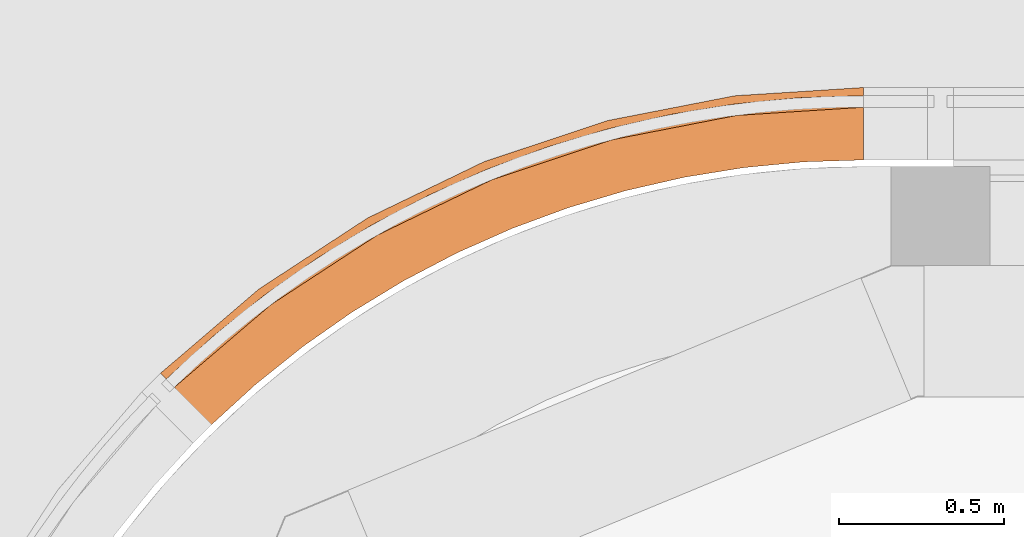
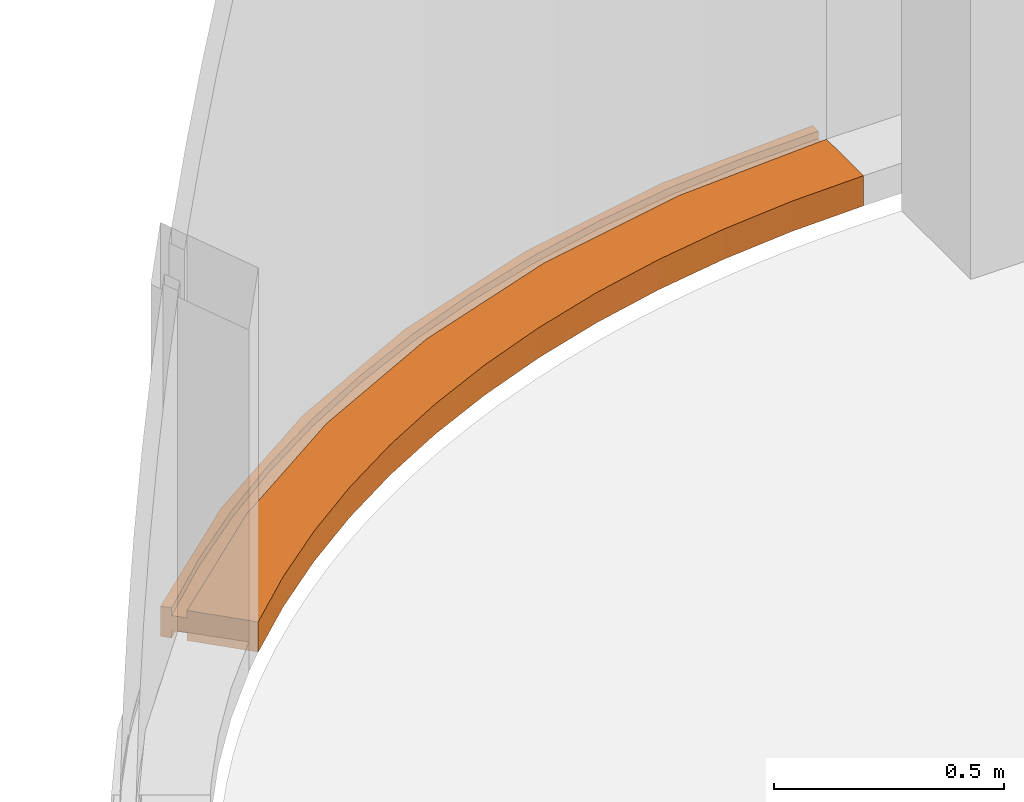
# One storey, part 296 of 302: 1 proxy.
"""IFC2X3 building model written with IfcOpenShell, lengths in metres."""

from ifc_helpers import new_model, entity, si_unit, converted_unit, derived_unit, direction, frame, origin, place, context, subcontext, project, spatial, faceted_brep, source, transform, mapped, material, type_object, type_shapes, element, save


model = new_model("IFC2X3")

# Units and contexts
model_context = context("Model", 3, precision=1e-05, world=origin(), true_north=direction((6.12303176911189e-17, 1.0)))
body_context = subcontext(model_context, "Body", "Model", "MODEL_VIEW")
ifc_project = project(units=[si_unit("LENGTHUNIT", "METRE"), si_unit("AREAUNIT", "SQUARE_METRE"), si_unit("VOLUMEUNIT", "CUBIC_METRE"), converted_unit("PLANEANGLEUNIT", "DEGREE", entity("IfcRatioMeasure", 0.0174532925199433), si_unit("PLANEANGLEUNIT", "RADIAN"), dimensions=[0, 0, 0, 0, 0, 0, 0]), si_unit("MASSUNIT", "GRAM", prefix="KILO"), derived_unit("MASSDENSITYUNIT", [(si_unit("MASSUNIT", "GRAM", prefix="KILO"), 1), (si_unit("LENGTHUNIT", "METRE"), -3)]), derived_unit("MOMENTOFINERTIAUNIT", [(si_unit("LENGTHUNIT", "METRE"), 4)]), si_unit("TIMEUNIT", "SECOND"), si_unit("FREQUENCYUNIT", "HERTZ"), si_unit("THERMODYNAMICTEMPERATUREUNIT", "DEGREE_CELSIUS"), derived_unit("THERMALTRANSMITTANCEUNIT", [(si_unit("MASSUNIT", "GRAM", prefix="KILO"), 1), (si_unit("THERMODYNAMICTEMPERATUREUNIT", "KELVIN"), -1), (si_unit("TIMEUNIT", "SECOND"), -3)]), derived_unit("VOLUMETRICFLOWRATEUNIT", [(si_unit("LENGTHUNIT", "METRE"), 3), (si_unit("TIMEUNIT", "SECOND"), -1)]), si_unit("ELECTRICCURRENTUNIT", "AMPERE"), si_unit("ELECTRICVOLTAGEUNIT", "VOLT"), si_unit("POWERUNIT", "WATT"), si_unit("FORCEUNIT", "NEWTON", prefix="KILO"), si_unit("ILLUMINANCEUNIT", "LUX"), si_unit("LUMINOUSFLUXUNIT", "LUMEN"), si_unit("LUMINOUSINTENSITYUNIT", "CANDELA"), derived_unit("USERDEFINED", [(si_unit("MASSUNIT", "GRAM", prefix="KILO"), -1), (si_unit("LENGTHUNIT", "METRE"), -2), (si_unit("TIMEUNIT", "SECOND"), 3), (si_unit("LUMINOUSFLUXUNIT", "LUMEN"), 1)]), derived_unit("LINEARVELOCITYUNIT", [(si_unit("LENGTHUNIT", "METRE"), 1), (si_unit("TIMEUNIT", "SECOND"), -1)]), si_unit("PRESSUREUNIT", "PASCAL"), derived_unit("USERDEFINED", [(si_unit("LENGTHUNIT", "METRE"), -2), (si_unit("MASSUNIT", "GRAM", prefix="KILO"), 1), (si_unit("TIMEUNIT", "SECOND"), -2)]), derived_unit("LINEARFORCEUNIT", [(si_unit("MASSUNIT", "GRAM", prefix="KILO"), 1), (si_unit("LENGTHUNIT", "METRE"), 1), (si_unit("TIMEUNIT", "SECOND"), -2), (si_unit("LENGTHUNIT", "METRE"), -1)]), derived_unit("PLANARFORCEUNIT", [(si_unit("MASSUNIT", "GRAM", prefix="KILO"), 1), (si_unit("LENGTHUNIT", "METRE"), 1), (si_unit("TIMEUNIT", "SECOND"), -2), (si_unit("LENGTHUNIT", "METRE"), -2)])], contexts=[model_context])

# Site, building, storey
site_placement = place(None, origin())
site = spatial("IfcSite", under=ifc_project, at=site_placement, Name="Default", CompositionType="ELEMENT")
building_placement = place(site_placement, origin())
building = spatial("IfcBuilding", under=site, at=building_placement, CompositionType="ELEMENT")
storey_placement = place(building_placement, frame((0.0, 0.0, -1.3)))
storey = spatial("IfcBuildingStorey", under=building, at=storey_placement, Name="00_EG", CompositionType="ELEMENT", Elevation=-1.3)

# Proxy
ifc_material = material(Name="Prepainted_Steel-ArcelorMittal_Construction_HAIRULTRA-35-CORAL-4309-[RAL_3000]")
building_element_proxy_type = type_object("IfcBuildingElementProxyType", Name="Fassadenrahmen Typ3:Fassadenrahmen Typ1", PredefinedType="NOTDEFINED", material=ifc_material)
shared_shape = source(origin(), body_context, "Body", "Brep", [
    faceted_brep([(0.0434522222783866, 0.116230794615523, 0.0800000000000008), (0.0434522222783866, 0.116230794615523, 0.0600000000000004), (0.0190356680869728, 0.141307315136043, 0.0599999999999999), (0.0190356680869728, 0.141307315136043, 0.0799999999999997), (0.00159527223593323, 0.159219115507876, 0.0799999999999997), (0.00159527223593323, 0.159219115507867, 0.0), (0.0190356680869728, 0.141307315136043, 0.0), (0.0190356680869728, 0.141307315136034, 0.0200000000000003), (0.0434522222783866, 0.116230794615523, 0.0200000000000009), (0.0434522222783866, 0.116230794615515, 0.0), (0.155070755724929, 0.0015952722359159, 0.0), (0.155070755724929, 0.00159527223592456, 0.0800000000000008), (2.13629972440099, 0.806814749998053, 0.0800000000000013), (2.13629972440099, 0.806814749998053, 0.0), (2.13629972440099, 0.966814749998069, 0.0), (2.13629972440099, 0.966814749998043, 0.0200000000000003), (2.13629972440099, 1.00181474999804, 0.0200000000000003), (2.13629972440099, 1.00181474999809, 0.0), (2.13629972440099, 1.02681474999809, 0.0), (2.13629972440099, 1.02681474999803, 0.0799999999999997), (2.13629972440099, 1.00181474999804, 0.0800000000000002), (2.13629972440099, 1.00181474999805, 0.0600000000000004), (2.13629972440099, 0.966814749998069, 0.0600000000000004), (2.13629972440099, 0.966814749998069, 0.0800000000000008), (1.37272960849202, 0.868014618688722, 0.0800000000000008), (1.28123544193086, 0.837522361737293, 0.0800000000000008), (1.18974127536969, 0.807030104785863, 0.0800000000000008), (1.09824710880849, 0.776537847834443, 0.0800000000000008), (1.00675294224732, 0.746045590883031, 0.0800000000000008), (0.919928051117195, 0.704064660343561, 0.0800000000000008), (0.833103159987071, 0.662083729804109, 0.0800000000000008), (0.746278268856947, 0.620102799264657, 0.0800000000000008), (0.659453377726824, 0.578121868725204, 0.0800000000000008), (0.578733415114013, 0.525346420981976, 0.0800000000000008), (0.498013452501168, 0.472570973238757, 0.0800000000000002), (0.417293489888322, 0.419795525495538, 0.0800000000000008), (0.336573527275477, 0.367020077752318, 0.0800000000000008), (0.28077446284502, 0.319279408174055, 0.0800000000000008), (0.224975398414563, 0.271538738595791, 0.0800000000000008), (0.134213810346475, 0.193884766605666, 0.0800000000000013), (0.289994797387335, 0.124767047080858, 0.0800000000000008), (0.432558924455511, 0.239009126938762, 0.0800000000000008), (0.582173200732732, 0.34384877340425, 0.0800000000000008), (0.738218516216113, 0.438852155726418, 0.0800000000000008), (0.900049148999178, 0.523626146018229, 0.0800000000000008), (1.0669954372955, 0.597819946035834, 0.0800000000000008), (1.23836655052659, 0.661126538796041, 0.0800000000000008), (1.41345334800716, 0.713283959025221, 0.0800000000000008), (1.59153131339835, 0.75407637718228, 0.0800000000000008), (1.77186355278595, 0.783334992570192, 0.0800000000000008), (1.95370384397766, 0.800938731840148, 0.0800000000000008), (2.04005777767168, 0.96061410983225, 0.0800000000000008), (1.94381583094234, 0.95441346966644, 0.0800000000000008), (1.847573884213, 0.948212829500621, 0.0800000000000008), (1.7513319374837, 0.942012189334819, 0.0800000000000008), (1.6566813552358, 0.923512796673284, 0.0800000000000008), (1.5620307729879, 0.905013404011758, 0.0800000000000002), (1.46738019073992, 0.88651401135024, 0.0800000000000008), (1.35745820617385, 0.926038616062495, 0.0799999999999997), (0.984162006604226, 0.80163020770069, 0.0799999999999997), (0.629916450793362, 0.630348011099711, 0.0799999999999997), (0.300579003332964, 0.415024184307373, 0.0799999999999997), (0.0911297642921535, 0.207121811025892, 0.0800000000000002), (0.163223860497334, 0.272936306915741, 0.0800000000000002), (0.239400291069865, 0.333979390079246, 0.0800000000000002), (0.315576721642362, 0.39502247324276, 0.0800000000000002), (0.395520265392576, 0.451041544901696, 0.0800000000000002), (0.475463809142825, 0.507060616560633, 0.0800000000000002), (0.55884365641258, 0.557823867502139, 0.0800000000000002), (0.642223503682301, 0.608587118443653, 0.0800000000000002), (0.728694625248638, 0.653884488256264, 0.0800000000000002), (0.815165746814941, 0.699181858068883, 0.0800000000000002), (0.904370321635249, 0.738825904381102, 0.0800000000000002), (0.993574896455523, 0.778469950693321, 0.0800000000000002), (1.08514379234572, 0.812296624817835, 0.0800000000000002), (1.17671268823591, 0.846123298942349, 0.0800000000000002), (1.27026698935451, 0.873992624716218, 0.0800000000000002), (1.36382129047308, 0.901861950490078, 0.0800000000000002), (1.45897386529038, 0.923658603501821, 0.0800000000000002), (1.55412644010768, 0.945455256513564, 0.0800000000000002), (1.65048354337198, 0.961089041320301, 0.0800000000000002), (1.74684064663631, 0.976722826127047, 0.0800000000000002), (1.84400354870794, 0.986129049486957, 0.0800000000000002), (1.94116645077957, 0.995535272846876, 0.0800000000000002), (2.03873308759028, 0.99867501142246, 0.0800000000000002), (1.74363258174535, 1.00151613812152, 0.0799999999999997), (0.336573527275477, 0.367020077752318, 0.0600000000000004), (0.263293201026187, 0.304322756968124, 0.0600000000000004), (0.190012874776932, 0.241625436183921, 0.0600000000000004), (0.134213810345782, 0.193884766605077, 0.0600000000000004), (0.336573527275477, 0.367020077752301, 0.0200000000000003), (0.336573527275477, 0.367020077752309, 0.0), (0.280774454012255, 0.319279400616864, 0.0), (0.224975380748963, 0.271538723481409, 0.0), (0.134213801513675, 0.193884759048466, 0.0), (0.116732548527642, 0.178928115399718, 0.0200000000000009), (0.190012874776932, 0.241625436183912, 0.0200000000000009), (0.263293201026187, 0.304322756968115, 0.0200000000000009), (2.01709898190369, 0.95913492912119, 0.0600000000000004), (1.94381583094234, 0.95441346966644, 0.0600000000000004), (1.847573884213, 0.948212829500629, 0.0600000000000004), (1.7513319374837, 0.94201218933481, 0.0600000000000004), (1.847573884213, 0.948212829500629, 0.0200000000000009), (1.94381583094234, 0.95441346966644, 0.0200000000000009), (2.01709898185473, 0.959134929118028, 0.0200000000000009), (2.01709898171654, 0.959134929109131, 0.0), (1.89789823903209, 0.951455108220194, 0.0), (1.82461508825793, 0.946733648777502, 0.0), (1.7513319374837, 0.94201218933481, 0.0), (1.7513319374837, 0.942012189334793, 0.0200000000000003), (0.659453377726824, 0.578121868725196, 0.0600000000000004), (1.00675294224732, 0.746045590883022, 0.0600000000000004), (0.919928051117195, 0.70406466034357, 0.0600000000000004), (0.833103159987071, 0.662083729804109, 0.0600000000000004), (0.746278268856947, 0.620102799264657, 0.0600000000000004), (0.919928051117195, 0.704064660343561, 0.0), (0.833103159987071, 0.662083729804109, 0.0), (0.746278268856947, 0.620102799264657, 0.0), (0.659453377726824, 0.578121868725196, 0.0), (0.659453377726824, 0.578121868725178, 0.0200000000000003), (0.746278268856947, 0.620102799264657, 0.0200000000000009), (0.833103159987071, 0.662083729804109, 0.0200000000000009), (0.919928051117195, 0.704064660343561, 0.0200000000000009), (1.00675294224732, 0.746045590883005, 0.0200000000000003), (1.00675294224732, 0.746045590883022, 0.0), (0.578733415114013, 0.525346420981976, 0.0600000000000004), (0.498013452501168, 0.472570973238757, 0.0600000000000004), (0.417293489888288, 0.419795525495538, 0.0600000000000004), (0.417293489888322, 0.419795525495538, 0.0200000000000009), (0.498013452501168, 0.472570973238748, 0.0200000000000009), (0.578733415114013, 0.525346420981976, 0.0200000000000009), (0.578733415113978, 0.525346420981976, 0.0), (0.498013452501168, 0.472570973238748, 0.0), (0.417293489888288, 0.419795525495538, 0.0), (1.65668135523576, 0.923512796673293, 0.0600000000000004), (1.56203077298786, 0.905013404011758, 0.0600000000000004), (1.46738019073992, 0.88651401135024, 0.0600000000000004), (1.37272960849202, 0.868014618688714, 0.0600000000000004), (1.56203077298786, 0.905013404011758, 0.0), (1.46738019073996, 0.88651401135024, 0.0), (1.37272960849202, 0.868014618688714, 0.0), (1.37272960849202, 0.868014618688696, 0.0200000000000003), (1.46738019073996, 0.88651401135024, 0.0200000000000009), (1.56203077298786, 0.905013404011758, 0.0200000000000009), (1.65668135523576, 0.923512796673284, 0.0200000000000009), (1.65668135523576, 0.923512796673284, 0.0), (1.09824710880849, 0.776537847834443, 0.0600000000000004), (1.28123544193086, 0.837522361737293, 0.0600000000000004), (1.18974127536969, 0.807030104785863, 0.0600000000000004), (1.09824710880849, 0.776537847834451, 0.0200000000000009), (1.18974127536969, 0.807030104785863, 0.0200000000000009), (1.28123544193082, 0.837522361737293, 0.0200000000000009), (1.28123544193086, 0.837522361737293, 0.0), (1.18974127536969, 0.807030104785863, 0.0), (1.09824710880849, 0.776537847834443, 0.0), (2.01615708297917, 0.997948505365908, 0.0599999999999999), (1.94116645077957, 0.995535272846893, 0.0600000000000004), (1.84400354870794, 0.986129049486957, 0.0599999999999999), (1.74684064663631, 0.976722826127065, 0.0600000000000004), (1.65048354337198, 0.961089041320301, 0.0599999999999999), (1.55412644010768, 0.945455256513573, 0.0600000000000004), (1.45897386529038, 0.923658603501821, 0.0599999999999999), (1.36382129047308, 0.901861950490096, 0.0600000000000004), (1.27026698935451, 0.873992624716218, 0.0599999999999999), (1.17671268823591, 0.846123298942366, 0.0600000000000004), (1.08514379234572, 0.812296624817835, 0.0599999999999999), (0.993574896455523, 0.778469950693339, 0.0600000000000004), (0.904370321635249, 0.738825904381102, 0.0599999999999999), (0.815165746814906, 0.6991818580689, 0.0600000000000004), (0.728694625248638, 0.653884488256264, 0.0599999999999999), (0.642223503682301, 0.608587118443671, 0.0600000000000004), (0.55884365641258, 0.557823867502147, 0.0599999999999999), (0.475463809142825, 0.50706061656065, 0.0600000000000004), (0.395520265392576, 0.451041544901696, 0.0599999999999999), (0.315576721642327, 0.395022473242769, 0.0600000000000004), (0.239400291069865, 0.333979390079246, 0.0599999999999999), (0.163223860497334, 0.27293630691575, 0.0600000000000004), (0.0911297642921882, 0.207121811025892, 0.0599999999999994), (0.728694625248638, 0.653884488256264, 0.0200000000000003), (0.642223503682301, 0.608587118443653, 0.0200000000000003), (0.642223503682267, 0.608587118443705, 0.0), (0.728694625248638, 0.653884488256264, 0.0), (0.815165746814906, 0.699181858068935, 0.0), (0.815165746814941, 0.699181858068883, 0.0200000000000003), (0.55884365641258, 0.557823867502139, 0.0199999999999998), (0.475463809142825, 0.507060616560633, 0.0200000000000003), (0.47546380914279, 0.507060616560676, 0.0), (0.55884365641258, 0.557823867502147, 0.0), (0.0911297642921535, 0.207121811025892, 0.0), (0.1632238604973, 0.272936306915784, 0.0), (0.163223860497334, 0.272936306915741, 0.0200000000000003), (0.0911297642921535, 0.207121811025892, 0.0200000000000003), (0.904370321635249, 0.738825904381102, 0.0), (0.993574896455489, 0.778469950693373, 0.0), (0.993574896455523, 0.778469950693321, 0.0200000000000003), (0.904370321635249, 0.738825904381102, 0.0200000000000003), (0.315576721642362, 0.39502247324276, 0.0200000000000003), (0.239400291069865, 0.333979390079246, 0.0200000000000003), (0.239400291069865, 0.333979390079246, 0.0), (0.315576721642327, 0.395022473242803, 0.0), (0.395520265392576, 0.451041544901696, 0.0), (0.395520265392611, 0.451041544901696, 0.0199999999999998), (1.27026698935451, 0.873992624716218, 0.0), (1.36382129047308, 0.90186195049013, 0.0), (1.36382129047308, 0.901861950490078, 0.0200000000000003), (1.27026698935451, 0.873992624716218, 0.0200000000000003), (1.17671268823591, 0.846123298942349, 0.0200000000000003), (1.17671268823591, 0.846123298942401, 0.0), (1.08514379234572, 0.812296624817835, 0.0), (1.08514379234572, 0.812296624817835, 0.0200000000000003), (1.55412644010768, 0.945455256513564, 0.0200000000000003), (1.45897386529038, 0.923658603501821, 0.0200000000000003), (1.45897386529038, 0.923658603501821, 0.0), (1.55412644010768, 0.945455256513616, 0.0), (1.94116645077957, 0.995535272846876, 0.0200000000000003), (1.84400354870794, 0.986129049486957, 0.0200000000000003), (1.74684064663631, 0.976722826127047, 0.0200000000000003), (1.74684064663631, 0.976722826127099, 0.0), (1.84400354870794, 0.986129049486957, 0.0), (1.94116645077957, 0.995535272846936, 0.0), (2.03873308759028, 0.99867501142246, 0.0200000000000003), (2.01615708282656, 0.997948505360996, 0.0), (1.65048354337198, 0.961089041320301, 0.0200000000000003), (1.65048354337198, 0.961089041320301, 0.0), (0.984162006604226, 0.801630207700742, 0.0), (0.629916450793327, 0.630348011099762, 0.0), (0.300579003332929, 0.415024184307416, 0.0), (1.35745820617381, 0.926038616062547, 0.0), (1.74363258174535, 1.00151613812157, 0.0), (1.59153131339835, 0.754076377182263, 0.0), (1.41345334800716, 0.713283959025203, 0.0), (1.23836655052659, 0.661126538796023, 0.0), (1.0669954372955, 0.597819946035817, 0.0), (0.900049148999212, 0.523626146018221, 0.0), (0.738218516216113, 0.438852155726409, 0.0), (0.582173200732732, 0.343848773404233, 0.0), (0.432558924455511, 0.239009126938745, 0.0), (0.289994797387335, 0.124767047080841, 0.0), (1.95370384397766, 0.80093873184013, 0.0), (1.77186355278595, 0.783334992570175, 0.0)], [[[0, 1, 2, 3, 4, 5, 6, 7, 8, 9, 10, 11]], [[12, 13, 14, 15, 16, 17, 18, 19, 20, 21, 22, 23]], [[24, 25, 26, 27, 28, 29, 30, 31, 32, 33, 34, 35, 36, 37, 38, 39, 0, 11, 40, 41, 42, 43, 44, 45, 46, 47, 48, 49, 50, 12, 23, 51, 52, 53, 54, 55, 56, 57]], [[58, 59, 60, 61, 4, 3, 62, 63, 64, 65, 66, 67, 68, 69, 70, 71, 72, 73, 74, 75, 76, 77, 78, 79, 80, 81, 82, 83, 84, 20, 19, 85]], [[37, 36, 86, 87, 88, 89, 1, 0, 39, 38]], [[90, 91, 92, 93, 94, 9, 8, 95, 96, 97]], [[22, 98, 99, 100, 101, 54, 53, 52, 51, 23]], [[102, 103, 104, 15, 14, 105, 106, 107, 108, 109]], [[110, 32, 31, 30, 29, 28, 111, 112, 113, 114]], [[115, 116, 117, 118, 119, 120, 121, 122, 123, 124]], [[86, 36, 35, 34, 33, 32, 110, 125, 126, 127]], [[128, 129, 130, 119, 118, 131, 132, 133, 91, 90]], [[56, 55, 54, 101, 134, 135, 136, 137, 24, 57]], [[138, 139, 140, 141, 142, 143, 144, 109, 108, 145]], [[146, 111, 28, 27, 26, 25, 24, 137, 147, 148]], [[149, 150, 151, 141, 140, 152, 153, 154, 124, 123]], [[137, 136, 135, 134, 101, 100, 99, 98, 22, 21, 155, 156, 157, 158, 159, 160, 161, 162, 163, 164, 165, 166, 167, 168, 169, 170, 171, 172, 173, 174, 175, 176, 177, 2, 1, 89, 88, 87, 86, 127, 126, 125, 110, 114, 113, 112, 111, 146, 148, 147]], [[170, 169, 168, 71, 70, 69]], [[178, 179, 180, 181, 182, 183]], [[172, 171, 170, 69, 68, 67]], [[184, 185, 186, 187, 180, 179]], [[3, 2, 177, 176, 63, 62]], [[6, 188, 189, 190, 191, 7]], [[168, 167, 166, 73, 72, 71]], [[192, 193, 194, 195, 183, 182]], [[175, 174, 65, 64, 63, 176]], [[196, 197, 190, 189, 198, 199]], [[174, 173, 172, 67, 66, 65]], [[200, 186, 185, 201, 196, 199]], [[163, 162, 77, 76, 75, 164]], [[202, 203, 204, 205, 206, 207]], [[74, 73, 166, 165, 164, 75]], [[208, 207, 206, 209, 194, 193]], [[161, 160, 79, 78, 77, 162]], [[210, 211, 204, 203, 212, 213]], [[157, 156, 83, 82, 81, 158]], [[214, 215, 216, 217, 218, 219]], [[84, 83, 156, 155, 21, 20]], [[17, 16, 220, 214, 219, 221]], [[160, 159, 158, 81, 80, 79]], [[216, 222, 210, 213, 223, 217]], [[60, 59, 224, 225]], [[5, 4, 61, 226]], [[225, 226, 61, 60]], [[227, 58, 85, 228]], [[228, 85, 19, 18]], [[224, 59, 58, 227]], [[227, 228, 18, 17, 221, 219, 218, 217, 223, 213, 212, 203, 202, 207, 208, 193, 192, 182, 181, 180, 187, 186, 200, 199, 198, 189, 188, 6, 5, 226, 225, 224]], [[229, 230, 231, 232, 233, 234, 235, 236, 237, 10, 9, 94, 93, 92, 91, 133, 132, 131, 118, 117, 116, 115, 124, 154, 153, 152, 140, 139, 138, 145, 108, 107, 106, 105, 14, 13, 238, 239]], [[141, 151, 150, 149, 123, 122, 121, 120, 119, 130, 129, 128, 90, 97, 96, 95, 8, 7, 191, 190, 197, 196, 201, 185, 184, 179, 178, 183, 195, 194, 209, 206, 205, 204, 211, 210, 222, 216, 215, 214, 220, 16, 15, 104, 103, 102, 109, 144, 143, 142]], [[237, 40, 11, 10]], [[44, 43, 234, 233]], [[42, 235, 234, 43]], [[45, 44, 233, 232]], [[41, 40, 237, 236]], [[41, 236, 235, 42]], [[47, 46, 231, 230]], [[47, 230, 229, 48]], [[50, 49, 239, 238]], [[229, 239, 49, 48]], [[12, 50, 238, 13]], [[232, 231, 46, 45]]]),
])
type_shapes(building_element_proxy_type, [shared_shape])
proxy_placement = place(storey_placement, frame((-265.976411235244, 44.7712742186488, 1.29999999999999)))
element("IfcBuildingElementProxy", 1, at=proxy_placement, inside=storey, type_object=building_element_proxy_type, material=ifc_material, Name="Fassadenrahmen Typ3:Fassadenrahmen Typ1", ObjectType="Fassadenrahmen Typ3:Fassadenrahmen Typ1", context=body_context, shape_type="MappedRepresentation", body=[
    mapped(shared_shape, transform((0.0, 0.0, 0.0), scale=1.0)),
])

save(model, "model.ifc")
